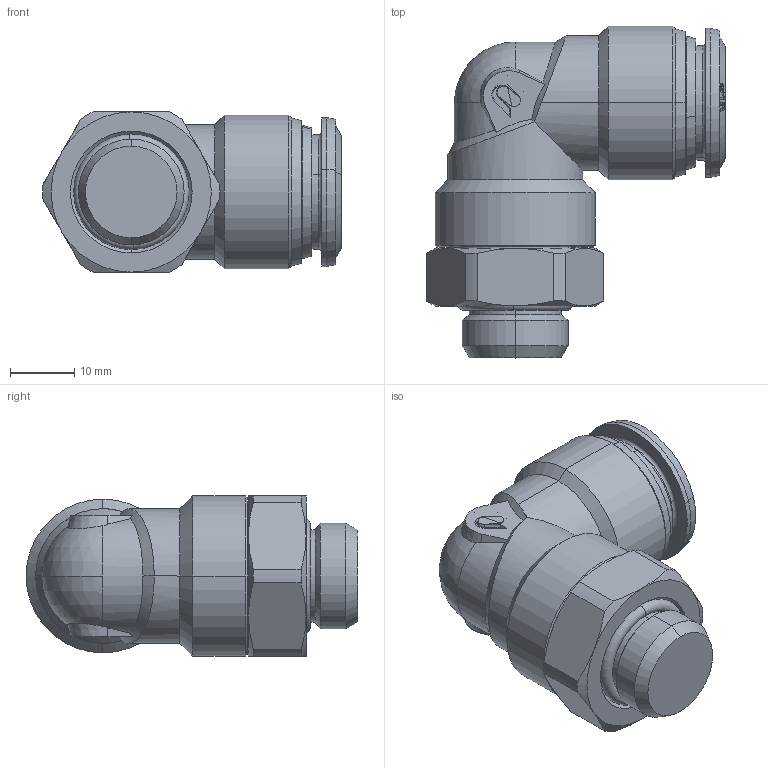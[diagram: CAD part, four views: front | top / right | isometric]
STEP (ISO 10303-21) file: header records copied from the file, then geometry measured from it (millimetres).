
FILE_DESCRIPTION (( 'STEP AP214' ), '1' );
FILE_NAME ('5011600031A.STEP', '2023-11-02T10:56:08', ( '' ), ( '' ), 'SwSTEP 2.0', 'SolidWorks 2020', '' );
FILE_SCHEMA (( 'AUTOMOTIVE_DESIGN' ));
Length unit declared in the file: millimetre
Products named in the file (1): 5011600031A
Bounding box: 46.65 x 51.8 x 25 mm (x, y, z)
Volume: 22398.5 mm3; surface area: 7845.6 mm2
Topology: 1 solids, 1 shells, 175 faces, 417 edges, 261 vertices
Faces by surface type: cone 56, bspline 44, plane 41, cylinder 28, torus 4, sphere 2
Entity records: 8048 total; most frequent: CARTESIAN_POINT 4304, ORIENTED_EDGE 834, DIRECTION 652, EDGE_CURVE 417, VERTEX_POINT 261, AXIS2_PLACEMENT_3D 251, EDGE_LOOP 192, FACE_OUTER_BOUND 175
